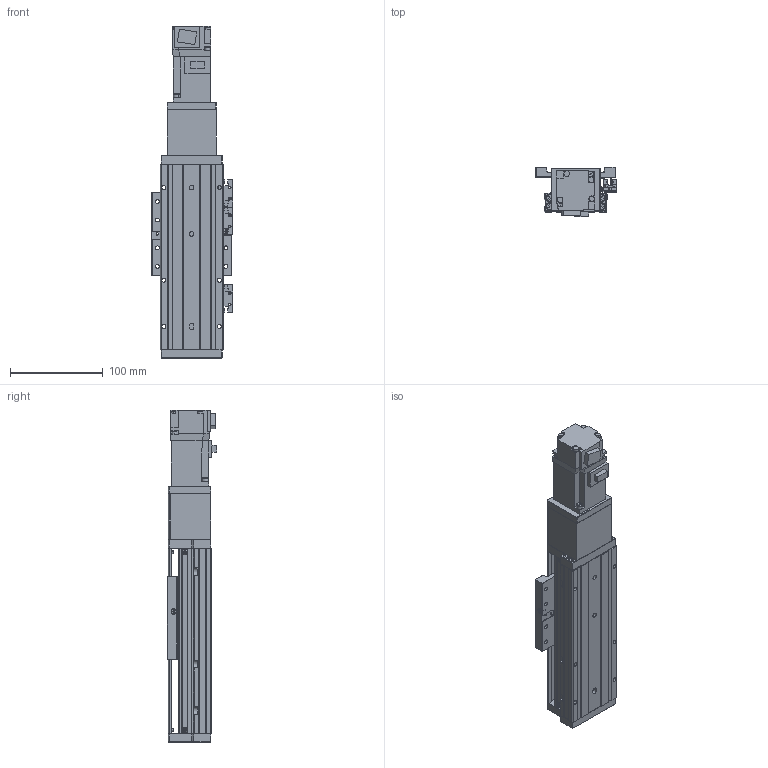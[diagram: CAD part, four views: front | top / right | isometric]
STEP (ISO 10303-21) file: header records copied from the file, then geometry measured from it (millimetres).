
FILE_DESCRIPTION (( 'STEP AP203' ), '1' );
FILE_NAME ('KTHAL60-50-BC-M10-C4L.step', '2022-03-19T08:35:16', ( '微软用户' ), ( '微软中国' ), 'SwSTEP 2.0', 'SolidWorks 2020', '' );
FILE_SCHEMA (( 'CONFIG_CONTROL_DESIGN' ));
Length unit declared in the file: millimetre
Products named in the file (18): KTHA60-004; GBT 70.1-M4×16; HG-KR13（三菱）; KTHA60-005; GBT77-2000M3-3; KTHAL60-50-BC-M10-C4L; GB¨uT 70.2-M3¡Á5_M3¡Á6; GBT 70.1-M3℅6; GBT 70.3-M3℅6; CTHA60-016; EE_SX911P_R; CTHA60-006-2_CTHA60-006-2; KTHA60-001_200; CTHA60-017; CTHA60-027; KTHLA60-002; CTHA60-021; CTHA60-013
Assembly tree (50 placements, depth 2):
  KTHAL60-50-BC-M10-C4L
    KTHA60-001_200
    KTHLA60-002
    KTHA60-004
    KTHA60-005
    GB¨uT 70.2-M3¡Á5_M3¡Á6  x5
    GBT 70.3-M3℅6  x6
    EE_SX911P_R  x3
    CTHA60-017  x3
    CTHA60-021  x2
    GBT 70.1-M4×16  x10
    GBT77-2000M3-3  x6
    GBT 70.1-M3℅6  x6
    CTHA60-016
    CTHA60-006-2_CTHA60-006-2
    CTHA60-027
    CTHA60-013
    HG-KR13（三菱）
Bounding box: 87.82 x 53.3 x 358.6 mm (x, y, z)
Volume: 705142.7 mm3; surface area: 192282.3 mm2
Topology: 53 solids, 53 shells, 2120 faces, 4994 edges, 3057 vertices
Faces by surface type: plane 1234, cylinder 501, cone 285, torus 86, sphere 14
Entity records: 34128 total; most frequent: CARTESIAN_POINT 5578, DIRECTION 5470, ORIENTED_EDGE 5192, EDGE_CURVE 2596, LINE 1844, VECTOR 1844, AXIS2_PLACEMENT_3D 1813, VERTEX_POINT 1625
